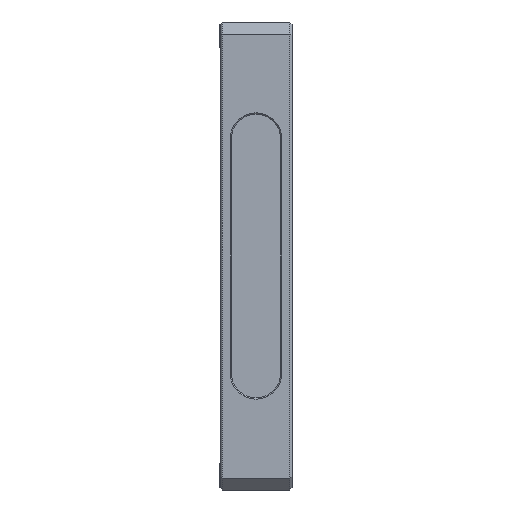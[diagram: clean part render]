
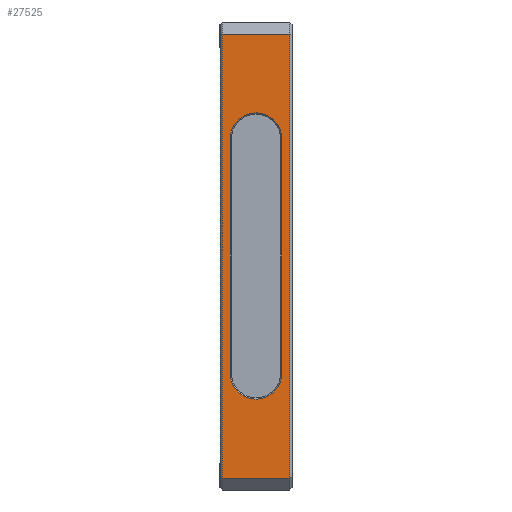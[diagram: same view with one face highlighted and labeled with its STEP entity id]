
A CAD part, left-side view. The second image highlights one B-rep face of the part: STEP entity #27525.
In plain terms, the highlighted planar face has unit normal (-1, 0, 0).
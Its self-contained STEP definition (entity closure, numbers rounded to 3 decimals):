
#9690=DIRECTION('',(0.,1.,0.));
#9691=VECTOR('',#9690,28.);
#9692=CARTESIAN_POINT('',(-97.5,1.,92.5));
#9693=LINE('',#9692,#9691);
#9722=CARTESIAN_POINT('',(-97.5,15.,-48.877));
#9723=DIRECTION('',(-1.,0.,0.));
#9724=DIRECTION('',(0.,1.,0.));
#9725=AXIS2_PLACEMENT_3D('',#9722,#9723,#9724);
#9727=CARTESIAN_POINT('',(-97.5,15.,-48.877));
#9728=DIRECTION('',(-1.,0.,0.));
#9729=DIRECTION('',(0.,0.,-1.));
#9730=AXIS2_PLACEMENT_3D('',#9727,#9728,#9729);
#9732=CARTESIAN_POINT('',(-97.5,15.,48.877));
#9733=DIRECTION('',(-1.,0.,0.));
#9734=DIRECTION('',(0.,-1.,0.));
#9735=AXIS2_PLACEMENT_3D('',#9732,#9733,#9734);
#9737=CARTESIAN_POINT('',(-97.5,15.,48.877));
#9738=DIRECTION('',(-1.,0.,0.));
#9739=DIRECTION('',(0.,0.,1.));
#9740=AXIS2_PLACEMENT_3D('',#9737,#9738,#9739);
#9742=DIRECTION('',(0.,0.,1.));
#9743=VECTOR('',#9742,185.);
#9744=CARTESIAN_POINT('',(-97.5,29.,-92.5));
#9745=LINE('',#9744,#9743);
#9746=DIRECTION('',(0.,0.,-1.));
#9747=VECTOR('',#9746,185.);
#9748=CARTESIAN_POINT('',(-97.5,1.,92.5));
#9749=LINE('',#9748,#9747);
#9750=DIRECTION('',(0.,1.,0.));
#9751=VECTOR('',#9750,28.);
#9752=CARTESIAN_POINT('',(-97.5,1.,-92.5));
#9753=LINE('',#9752,#9751);
#9754=DIRECTION('',(0.,0.,1.));
#9755=VECTOR('',#9754,97.754);
#9756=CARTESIAN_POINT('',(-97.5,25.749,
-48.877));
#9757=LINE('',#9756,#9755);
#9818=DIRECTION('',(0.,0.,-1.));
#9819=VECTOR('',#9818,97.754);
#9820=CARTESIAN_POINT('',(-97.5,4.251,48.877));
#9821=LINE('',#9820,#9819);
#10754=CARTESIAN_POINT('',(-97.5,4.251,
-48.877));
#10755=VERTEX_POINT('',#10754);
#10756=CARTESIAN_POINT('',(-97.5,25.749,-48.877));
#10757=CARTESIAN_POINT('',(-97.5,15.,-59.626));
#10758=VERTEX_POINT('',#10756);
#10759=VERTEX_POINT('',#10757);
#10762=CARTESIAN_POINT('',(-97.5,4.251,
48.877));
#10763=VERTEX_POINT('',#10762);
#10768=CARTESIAN_POINT('',(-97.5,25.749,
48.877));
#10769=VERTEX_POINT('',#10768);
#10770=CARTESIAN_POINT('',(-97.5,15.,59.626));
#10771=VERTEX_POINT('',#10770);
#10772=CARTESIAN_POINT('',(-97.5,29.,-92.5));
#10773=CARTESIAN_POINT('',(-97.5,29.,92.5));
#10774=VERTEX_POINT('',#10772);
#10775=VERTEX_POINT('',#10773);
#10776=CARTESIAN_POINT('',(-97.5,1.,92.5));
#10777=VERTEX_POINT('',#10776);
#10778=CARTESIAN_POINT('',(-97.5,1.,-92.5));
#10779=VERTEX_POINT('',#10778);
#27500=CARTESIAN_POINT('',(-97.5,30.,87.5));
#27501=DIRECTION('',(1.,0.,0.));
#27502=DIRECTION('',(0.,0.,-1.));
#27503=AXIS2_PLACEMENT_3D('',#27500,#27501,#27502);
#27504=PLANE('',#27503);
#27505=ORIENTED_EDGE('',*,*,#21105,.T.);
#27506=ORIENTED_EDGE('',*,*,#27442,.F.);
#27507=ORIENTED_EDGE('',*,*,#27468,.T.);
#27508=ORIENTED_EDGE('',*,*,#27493,.T.);
#27509=EDGE_LOOP('',(#27505,#27506,#27507,#27508));
#27510=FACE_OUTER_BOUND('',#27509,.F.);
#27512=ORIENTED_EDGE('',*,*,#27511,.F.);
#27514=ORIENTED_EDGE('',*,*,#27513,.T.);
#27516=ORIENTED_EDGE('',*,*,#27515,.T.);
#27518=ORIENTED_EDGE('',*,*,#27517,.F.);
#27520=ORIENTED_EDGE('',*,*,#27519,.T.);
#27522=ORIENTED_EDGE('',*,*,#27521,.T.);
#27523=EDGE_LOOP('',(#27512,#27514,#27516,#27518,#27520,#27522));
#27524=FACE_BOUND('',#27523,.F.);
#27525=ADVANCED_FACE('',(#27510,#27524),#27504,.F.);
#9726=CIRCLE('',#9725,10.749);
#9731=CIRCLE('',#9730,10.749);
#9736=CIRCLE('',#9735,10.749);
#9741=CIRCLE('',#9740,10.749);
#21105=EDGE_CURVE('',#10774,#10775,#9745,.T.);
#27442=EDGE_CURVE('',#10777,#10775,#9693,.T.);
#27468=EDGE_CURVE('',#10777,#10779,#9749,.T.);
#27493=EDGE_CURVE('',#10779,#10774,#9753,.T.);
#27511=EDGE_CURVE('',#10758,#10769,#9757,.T.);
#27513=EDGE_CURVE('',#10758,#10759,#9726,.T.);
#27515=EDGE_CURVE('',#10759,#10755,#9731,.T.);
#27517=EDGE_CURVE('',#10763,#10755,#9821,.T.);
#27519=EDGE_CURVE('',#10763,#10771,#9736,.T.);
#27521=EDGE_CURVE('',#10771,#10769,#9741,.T.);
